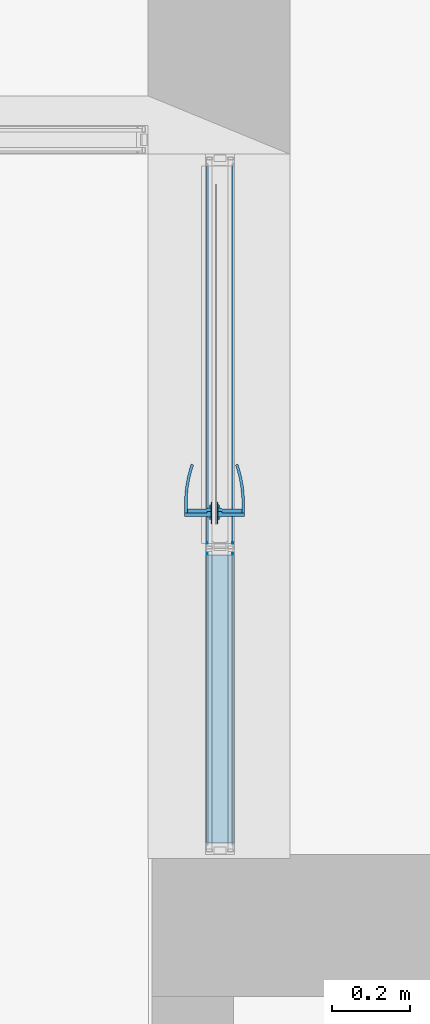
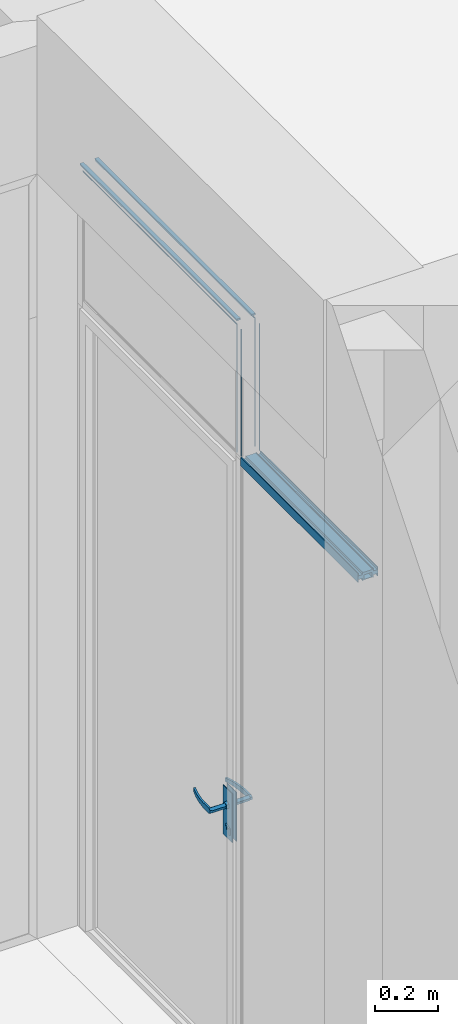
# One storey, part 72 of 89: 4 building element parts, 5 elements without a shape of their own.
"""IFC2X3 building model written with IfcOpenShell, lengths in millimetres."""

from ifc_helpers import new_model, entity, si_unit, converted_unit, derived_unit, money_unit, direction, frame, origin_with_axes, place, context, subcontext, project, spatial, open_shell, faceted_brep, surface_model, material, type_object, element, aggregate, save


model = new_model("IFC2X3")

# Units and contexts
model_context = context("Model", 3, precision=0.01, world=origin_with_axes(), true_north=direction((0.0, 1.0)))
body_context = subcontext(model_context, "Body", "Model", "MODEL_VIEW")
ifc_project = project(units=[si_unit("LENGTHUNIT", "METRE", prefix="MILLI"), si_unit("AREAUNIT", "SQUARE_METRE"), si_unit("VOLUMEUNIT", "CUBIC_METRE"), converted_unit("PLANEANGLEUNIT", "DEGREE", entity("IfcPlaneAngleMeasure", 0.0174532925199), si_unit("PLANEANGLEUNIT", "RADIAN"), dimensions=[0, 0, 0, 0, 0, 0, 0]), si_unit("SOLIDANGLEUNIT", "STERADIAN"), money_unit("EUR"), converted_unit("TIMEUNIT", "Year", entity("IfcTimeMeasure", 31556926.0), si_unit("TIMEUNIT", "SECOND"), dimensions=[0, 0, 1, 0, 0, 0, 0]), si_unit("MASSUNIT", "GRAM", prefix="KILO"), si_unit("THERMODYNAMICTEMPERATUREUNIT", "DEGREE_CELSIUS"), si_unit("LUMINOUSINTENSITYUNIT", "LUMEN"), si_unit("ENERGYUNIT", "JOULE", prefix="MEGA"), derived_unit("THERMALCONDUCTANCEUNIT", [(si_unit("POWERUNIT", "WATT"), 1), (si_unit("LENGTHUNIT", "METRE"), -1), (si_unit("THERMODYNAMICTEMPERATUREUNIT", "KELVIN"), -1)]), derived_unit("SPECIFICHEATCAPACITYUNIT", [(si_unit("ENERGYUNIT", "JOULE"), 1), (si_unit("MASSUNIT", "GRAM", prefix="KILO"), -1), (si_unit("THERMODYNAMICTEMPERATUREUNIT", "KELVIN"), -1)]), derived_unit("MASSDENSITYUNIT", [(si_unit("MASSUNIT", "GRAM", prefix="KILO"), 1), (si_unit("VOLUMEUNIT", "CUBIC_METRE"), -1)])], contexts=[model_context])

# Site, building, storey
site_placement = place(None, origin_with_axes())
site = spatial("IfcSite", under=ifc_project, at=site_placement, Name="Puškini 31, Narva", CompositionType="ELEMENT")
building_placement = place(site_placement, origin_with_axes())
building = spatial("IfcBuilding", under=site, at=building_placement, Name="Narva Riigigümnaasium", CompositionType="ELEMENT")
storey_placement = place(building_placement, frame((0.0, 0.0, -3300.0), z_axis=(0.0, 0.0, 1.0), x_axis=(1.0, 0.0, 0.0)))
storey = spatial("IfcBuildingStorey", under=building, at=storey_placement, Name="1.korrus -3.3", CompositionType="ELEMENT", Elevation=-3300.0)

# Curtain wall, door, building element parts, members
curtain_wall_type = type_object("IfcCurtainWallType", Name="Curtain Wall Type", PredefinedType="NOTDEFINED")
curtain_wall_placement = place(storey_placement, frame((47675.0000001, 242632.20006, -3.78005973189e-05), z_axis=(0.0, 0.0, 1.0), x_axis=(1.0, 0.0, 0.0)))
curtain_wall = element("IfcCurtainWall", 1, at=curtain_wall_placement, inside=storey, type_object=curtain_wall_type, Name="G-SKLF-10")
door_style = type_object("IfcDoorStyle", Name="955 x 2365 x 20", ConstructionType="NOTDEFINED", OperationType="NOTDEFINED", ParameterTakesPrecedence=False, Sizeable=False)
door_placement = place(curtain_wall_placement, frame((0.0, 921.799996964, 960.00001512), z_axis=(0.0, 0.0, 1.0), x_axis=(0.0, 1.0, 0.0)))
door = element("IfcDoor", 2, at=door_placement, type_object=door_style, Name="G-SKLF-10-U1", ObjectType="DOOR")
ifc_material_1 = material(Name="ET-07_Teras - Roostevaba")
building_element_part_1_placement = place(door_placement, origin_with_axes())
building_element_part_1 = element("IfcBuildingElementPart", 3, at=building_element_part_1_placement, material=ifc_material_1, Name="ET-07_Teras - Roostevaba", context=body_context, shape_type="SurfaceModel", body=[
    faceted_brep([(-544.50001575, 20.0, 119.999985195), (-487.50001575, 20.0, 119.999985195), (-487.50001575, 23.0, 119.999985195), (-544.50001575, 23.0, 119.999985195), (-544.50001575, 20.0, -70.0000148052), (-487.50001575, 20.0, -70.0000148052), (-487.50001575, 23.0, -70.0000148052), (-544.50001575, 23.0, -70.0000148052)], [[[0, 1, 2, 3]], [[0, 4, 5, 1]], [[1, 5, 6, 2]], [[3, 2, 6, 7]], [[4, 0, 3, 7]], [[5, 4, 7, 6]]]),
    surface_model("IfcShellBasedSurfaceModel", [(-516.00001575, 84.0, 49.9999851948), (-524.660269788, 84.0, 54.9999851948), (-524.660269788, 91.0, 54.9999851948), (-516.00001575, 91.0, 49.9999851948), (-491.00001575, 84.0, 49.9999851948), (-491.00001575, 84.0, 69.9999851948), (-516.00001575, 84.0, 69.9999851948), (-524.660269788, 84.0, 64.9999851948), (-524.660269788, 91.0, 64.9999851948), (-516.00001575, 91.0, 69.9999851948), (-491.00001575, 91.0, 69.9999851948), (-491.00001575, 91.0, 49.9999851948)], [open_shell([[[0, 1, 2, 3]], [[0, 4, 5, 6, 7, 1]], [[1, 7, 8, 2]], [[3, 2, 8, 9, 10, 11]], [[4, 0, 3, 11]], [[6, 5, 10, 9]], [[7, 6, 9, 8]]])]),
    surface_model("IfcShellBasedSurfaceModel", [(-491.00001575, 84.0, 69.9999851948), (-477.901732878, 84.0, 69.6072861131), (-477.596106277, 91.0, 69.6072861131), (-491.00001575, 84.0, 49.9999851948), (-477.901732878, 84.0, 50.3926842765), (-450.890299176, 88.6635446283, 68.8218879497), (-491.00001575, 91.0, 69.9999851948), (-491.00001575, 91.0, 49.9999851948), (-451.804852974, 81.716818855, 51.1780824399), (-451.804852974, 81.716818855, 68.8218879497), (-450.890299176, 88.6635446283, 51.1780824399), (-477.596106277, 91.0, 50.3926842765), (-426.006271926, 77.1678329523, 51.9634806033), (-426.006271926, 77.1678329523, 68.0364897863), (-424.489751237, 84.0084157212, 68.0364897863), (-424.489751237, 84.0084157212, 51.9634806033), (-400.702332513, 70.3876628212, 52.7488787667), (-400.702332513, 70.3876628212, 67.2510916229), (-398.595386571, 77.0700416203, 67.2510916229), (-398.595386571, 77.0700416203, 52.7488787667), (-392.829457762, 67.5221707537, 52.9999851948), (-392.829457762, 67.5221707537, 66.9999851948), (-390.538811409, 74.1376880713, 66.9999851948), (-390.538811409, 74.1376880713, 52.9999851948)], [open_shell([[[0, 1, 2]], [[0, 3, 4, 1]], [[1, 5, 2]], [[0, 2, 6]], [[4, 3, 7]], [[1, 4, 8, 9]], [[1, 9, 5]], [[2, 5, 10, 11]], [[6, 2, 11, 7]], [[4, 7, 11]], [[8, 4, 11]], [[9, 8, 12, 13]], [[9, 14, 5]], [[5, 14, 15, 10]], [[8, 11, 10]], [[12, 8, 10]], [[13, 12, 16, 17]], [[9, 13, 14]], [[14, 18, 19, 15]], [[12, 10, 15]], [[16, 12, 15]], [[17, 16, 20, 21]], [[13, 17, 18]], [[13, 18, 14]], [[18, 22, 23, 19]], [[16, 15, 19]], [[20, 16, 19]], [[21, 20, 23, 22]], [[17, 21, 22]], [[17, 22, 18]], [[20, 19, 23]]])]),
    faceted_brep([(-512.291811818, 33.0, 48.5873069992), (-504.00001575, 33.0, 59.9999851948), (-503.00001575, 23.0, 59.9999851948), (-511.982794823, 23.0, 47.6362504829), (-525.708219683, 33.0, 52.9465621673), (-525.708219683, 33.0, 67.0534082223), (-512.291811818, 33.0, 71.4126633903), (-511.982794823, 23.0, 72.3637199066), (-526.517236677, 23.0, 67.6411934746), (-526.517236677, 23.0, 52.358776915)], [[[0, 1, 2, 3]], [[1, 0, 4, 5, 6]], [[1, 6, 7, 2]], [[2, 7, 8, 9, 3]], [[4, 0, 3, 9]], [[5, 4, 9, 8]], [[6, 5, 8, 7]]]),
    faceted_brep([(-509.819675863, 27.0, -54.0211451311), (-496.00001575, 27.0, -35.0000148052), (-494.00001575, 23.0, -35.0000148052), (-509.201641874, 23.0, -55.9232581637), (-532.180355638, 27.0, -46.7557198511), (-532.180355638, 27.0, -23.2443097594), (-509.819675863, 27.0, -15.9788844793), (-509.201641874, 23.0, -14.0767714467), (-533.798389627, 23.0, -22.0687392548), (-533.798389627, 23.0, -47.9312903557)], [[[0, 1, 2, 3]], [[1, 0, 4, 5, 6]], [[1, 6, 7, 2]], [[2, 7, 8, 9, 3]], [[4, 0, 3, 9]], [[5, 4, 9, 8]], [[6, 5, 8, 7]]]),
    faceted_brep([(-513.83689679, 29.0, -32.6574104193), (-509.00001575, 29.0, -26.0000148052), (-508.00001575, 27.0, -26.0000148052), (-513.527879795, 27.0, -33.6084669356), (-521.663134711, 29.0, -30.1145115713), (-521.663134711, 29.0, -21.8855180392), (-513.83689679, 29.0, -19.3426191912), (-513.527879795, 27.0, -18.3915626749), (-522.472151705, 27.0, -21.2977327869), (-522.472151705, 27.0, -30.7022968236)], [[[0, 1, 2, 3]], [[1, 0, 4, 5, 6]], [[1, 6, 7, 2]], [[2, 7, 8, 9, 3]], [[4, 0, 3, 9]], [[5, 4, 9, 8]], [[6, 5, 8, 7]]]),
    faceted_brep([(-516.00001575, 33.0, 69.9999851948), (-506.489450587, 33.0, 63.0901551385), (-506.489450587, 84.0, 63.0901551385), (-516.00001575, 84.0, 69.9999851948), (-525.510580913, 33.0, 63.0901551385), (-521.877868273, 33.0, 51.909815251), (-510.122163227, 33.0, 51.909815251), (-510.122163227, 84.0, 51.909815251), (-521.877868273, 84.0, 51.909815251), (-525.510580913, 84.0, 63.0901551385)], [[[0, 1, 2, 3]], [[0, 4, 5, 6, 1]], [[1, 6, 7, 2]], [[3, 2, 7, 8, 9]], [[4, 0, 3, 9]], [[5, 4, 9, 8]], [[6, 5, 8, 7]]]),
    faceted_brep([(-544.50001575, 8.0, 119.999985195), (-544.50001575, 5.0, 119.999985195), (-487.50001575, 5.0, 119.999985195), (-487.50001575, 8.0, 119.999985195), (-544.50001575, 8.0, -70.0000148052), (-544.50001575, 5.0, -70.0000148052), (-487.50001575, 5.0, -70.0000148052), (-487.50001575, 8.0, -70.0000148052)], [[[0, 1, 2, 3]], [[4, 5, 1, 0]], [[1, 5, 6, 2]], [[3, 2, 6, 7]], [[0, 3, 7, 4]], [[7, 6, 5, 4]]]),
    surface_model("IfcShellBasedSurfaceModel", [(-516.00001575, -56.0, 49.9999851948), (-516.00001575, -63.0, 49.9999851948), (-524.660269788, -63.0, 54.9999851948), (-524.660269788, -56.0, 54.9999851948), (-491.00001575, -56.0, 49.9999851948), (-491.00001575, -63.0, 49.9999851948), (-491.00001575, -63.0, 69.9999851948), (-516.00001575, -63.0, 69.9999851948), (-524.660269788, -63.0, 64.9999851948), (-524.660269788, -56.0, 64.9999851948), (-516.00001575, -56.0, 69.9999851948), (-491.00001575, -56.0, 69.9999851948)], [open_shell([[[0, 1, 2, 3]], [[4, 5, 1, 0]], [[1, 5, 6, 7, 8, 2]], [[3, 2, 8, 9]], [[0, 3, 9, 10, 11, 4]], [[10, 7, 6, 11]], [[9, 8, 7, 10]]])]),
    surface_model("IfcShellBasedSurfaceModel", [(-491.00001575, -56.0, 69.9999851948), (-477.596106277, -63.0, 69.6072861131), (-477.901732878, -56.0, 69.6072861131), (-491.00001575, -63.0, 69.9999851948), (-450.890299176, -60.6635446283, 68.8218879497), (-477.901732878, -56.0, 50.3926842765), (-491.00001575, -56.0, 49.9999851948), (-491.00001575, -63.0, 49.9999851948), (-477.596106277, -63.0, 50.3926842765), (-450.890299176, -60.6635446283, 51.1780824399), (-451.804852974, -53.716818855, 68.8218879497), (-451.804852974, -53.716818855, 51.1780824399), (-424.489751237, -56.0084157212, 51.9634806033), (-424.489751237, -56.0084157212, 68.0364897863), (-426.006271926, -49.1678329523, 68.0364897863), (-426.006271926, -49.1678329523, 51.9634806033), (-398.595386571, -49.0700416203, 52.7488787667), (-398.595386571, -49.0700416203, 67.2510916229), (-400.702332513, -42.3876628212, 67.2510916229), (-400.702332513, -42.3876628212, 52.7488787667), (-390.538811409, -46.1376880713, 52.9999851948), (-390.538811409, -46.1376880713, 66.9999851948), (-392.829457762, -39.5221707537, 66.9999851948), (-392.829457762, -39.5221707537, 52.9999851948)], [open_shell([[[0, 1, 2]], [[0, 3, 1]], [[2, 1, 4]], [[0, 2, 5, 6]], [[3, 7, 8, 1]], [[1, 8, 9, 4]], [[2, 4, 10]], [[2, 10, 11, 5]], [[5, 7, 6]], [[5, 8, 7]], [[11, 9, 8]], [[4, 9, 12, 13]], [[10, 4, 13]], [[10, 14, 15, 11]], [[11, 8, 5]], [[15, 9, 11]], [[15, 12, 9]], [[13, 12, 16, 17]], [[10, 13, 14]], [[14, 18, 19, 15]], [[19, 12, 15]], [[19, 16, 12]], [[17, 16, 20, 21]], [[14, 13, 17]], [[14, 17, 18]], [[18, 22, 23, 19]], [[23, 16, 19]], [[23, 20, 16]], [[22, 21, 20, 23]], [[18, 17, 21]], [[18, 21, 22]]])]),
    faceted_brep([(-512.291811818, -5.0, 48.5873069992), (-511.982794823, 5.0, 47.6362504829), (-503.00001575, 5.0, 59.9999851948), (-504.00001575, -5.0, 59.9999851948), (-525.708219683, -5.0, 52.9465621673), (-526.517236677, 5.0, 52.358776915), (-526.517236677, 5.0, 67.6411934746), (-511.982794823, 5.0, 72.3637199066), (-512.291811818, -5.0, 71.4126633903), (-525.708219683, -5.0, 67.0534082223)], [[[0, 1, 2, 3]], [[4, 5, 1, 0]], [[2, 1, 5, 6, 7]], [[3, 2, 7, 8]], [[3, 8, 9, 4, 0]], [[9, 6, 5, 4]], [[8, 7, 6, 9]]]),
    faceted_brep([(-509.819675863, 0.999999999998, -54.0211451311), (-509.201641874, 5.0, -55.9232581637), (-494.00001575, 5.0, -35.0000148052), (-496.00001575, 0.999999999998, -35.0000148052), (-532.180355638, 0.999999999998, -46.7557198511), (-533.798389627, 5.0, -47.9312903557), (-533.798389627, 5.0, -22.0687392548), (-509.201641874, 5.0, -14.0767714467), (-509.819675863, 0.999999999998, -15.9788844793), (-532.180355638, 0.999999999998, -23.2443097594)], [[[0, 1, 2, 3]], [[4, 5, 1, 0]], [[2, 1, 5, 6, 7]], [[3, 2, 7, 8]], [[3, 8, 9, 4, 0]], [[9, 6, 5, 4]], [[8, 7, 6, 9]]]),
    faceted_brep([(-513.83689679, -0.999999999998, -32.6574104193), (-513.527879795, 0.999999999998, -33.6084669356), (-508.00001575, 0.999999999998, -26.0000148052), (-509.00001575, -0.999999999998, -26.0000148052), (-521.663134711, -0.999999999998, -30.1145115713), (-522.472151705, 0.999999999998, -30.7022968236), (-522.472151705, 0.999999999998, -21.2977327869), (-513.527879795, 0.999999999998, -18.3915626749), (-513.83689679, -0.999999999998, -19.3426191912), (-521.663134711, -0.999999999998, -21.8855180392)], [[[0, 1, 2, 3]], [[4, 5, 1, 0]], [[2, 1, 5, 6, 7]], [[3, 2, 7, 8]], [[3, 8, 9, 4, 0]], [[9, 6, 5, 4]], [[8, 7, 6, 9]]]),
    faceted_brep([(-516.00001575, -5.0, 69.9999851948), (-516.00001575, -56.0, 69.9999851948), (-506.489450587, -56.0, 63.0901551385), (-506.489450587, -5.0, 63.0901551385), (-525.510580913, -5.0, 63.0901551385), (-525.510580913, -56.0, 63.0901551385), (-521.877868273, -56.0, 51.909815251), (-510.122163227, -56.0, 51.909815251), (-510.122163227, -5.0, 51.909815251), (-521.877868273, -5.0, 51.909815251)], [[[0, 1, 2, 3]], [[4, 5, 1, 0]], [[1, 5, 6, 7, 2]], [[3, 2, 7, 8]], [[0, 3, 8, 9, 4]], [[9, 6, 5, 4]], [[8, 7, 6, 9]]]),
])
aggregate(door, [building_element_part_1])
member_type_1 = type_object("IfcMemberType", Name="30 x 64", PredefinedType="MULLION")
member_1_placement = place(curtain_wall_placement, frame((0.0, 327.799996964, 2949.99999283), z_axis=(0.0, 1.0, 0.0), x_axis=(0.0, 0.0, -1.0)))
member_1 = element("IfcMember", 4, at=member_1_placement, type_object=member_type_1, Name="G-SKLF-10-raam", ObjectType="MULLION")
ifc_material_2 = material(Name="Klaasvill")
building_element_part_2_placement = place(member_1_placement, origin_with_axes())
building_element_part_2 = element("IfcBuildingElementPart", 5, at=building_element_part_2_placement, material=ifc_material_2, Name="Klaasvill", context=body_context, shape_type="Brep", body=[
    faceted_brep([(7.49999990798, 20.000000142, 0.0), (13.8499999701, 20.000000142, 0.0), (13.8499999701, 20.000000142, 986.15000003), (7.49999990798, 20.000000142, 992.500000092), (7.49999990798, 34.0161444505, 0.0), (13.8499999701, 34.0161444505, 0.0), (13.8499999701, 34.0161444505, 986.15000003), (7.49999990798, 34.0161444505, 992.500000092)], [[[0, 1, 2, 3]], [[0, 4, 5, 1]], [[1, 5, 6, 2]], [[3, 2, 6, 7]], [[4, 0, 3, 7]], [[5, 4, 7, 6]]]),
    faceted_brep([(24.987414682, 34.0161444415, 0.0), (25.004489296, 32.0307503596, 0.0), (25.004489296, 32.0307503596, 974.995510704), (24.987414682, 34.0161444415, 975.012585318), (28.5126239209, 34.0161444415, 0.0), (28.7655837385, 33.0385325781, 0.0), (28.4955493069, 32.0307503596, 0.0), (27.75780152, 31.2930025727, 0.0), (26.7500193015, 31.0229681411, 0.0), (25.742237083, 31.2930025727, 0.0), (25.742237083, 31.2930025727, 974.257762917), (26.7500193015, 31.0229681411, 973.249980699), (27.75780152, 31.2930025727, 972.24219848), (28.4955493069, 32.0307503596, 971.504450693), (28.7655837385, 33.0385325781, 971.234416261), (28.5126239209, 34.0161444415, 971.487376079)], [[[0, 1, 2, 3]], [[0, 4, 5, 6, 7, 8, 9, 1]], [[1, 9, 10, 2]], [[3, 2, 10, 11, 12, 13, 14, 15]], [[4, 0, 3, 15]], [[5, 4, 15, 14]], [[6, 5, 14, 13]], [[7, 6, 13, 12]], [[8, 7, 12, 11]], [[9, 8, 11, 10]]]),
    faceted_brep([(7.49999990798, -19.9999997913, 0.0), (7.49999990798, -34.0161445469, 0.0), (7.49999990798, -34.0161445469, 992.500000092), (7.49999990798, -19.9999997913, 992.500000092), (13.8499999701, -19.9999997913, 0.0), (13.8499999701, -34.0161445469, 0.0), (13.8499999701, -34.0161445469, 986.15000003), (13.8499999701, -19.9999997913, 986.15000003)], [[[0, 1, 2, 3]], [[0, 4, 5, 1]], [[1, 5, 6, 2]], [[3, 2, 6, 7]], [[4, 0, 3, 7]], [[5, 4, 7, 6]]]),
    faceted_brep([(25.004489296, -32.0307503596, 0.0), (24.987414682, -34.0161444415, 0.0), (24.987414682, -34.0161444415, 975.012585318), (25.004489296, -32.0307503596, 974.995510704), (25.742237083, -31.2930025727, 0.0), (26.7500193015, -31.0229681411, 0.0), (27.75780152, -31.2930025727, 0.0), (28.4955493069, -32.0307503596, 0.0), (28.7655837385, -33.0385325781, 0.0), (28.5126239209, -34.0161444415, 0.0), (28.5126239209, -34.0161444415, 971.487376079), (28.7655837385, -33.0385325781, 971.234416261), (28.4955493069, -32.0307503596, 971.504450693), (27.75780152, -31.2930025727, 972.24219848), (26.7500193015, -31.0229681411, 973.249980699), (25.742237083, -31.2930025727, 974.257762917)], [[[0, 1, 2, 3]], [[0, 4, 5, 6, 7, 8, 9, 1]], [[1, 9, 10, 2]], [[3, 2, 10, 11, 12, 13, 14, 15]], [[4, 0, 3, 15]], [[5, 4, 15, 14]], [[6, 5, 14, 13]], [[7, 6, 13, 12]], [[8, 7, 12, 11]], [[9, 8, 11, 10]]]),
])
aggregate(member_1, [building_element_part_2])
member_type_2 = type_object("IfcMemberType", Name="34 x 37", PredefinedType="MULLION")
member_2_placement = place(curtain_wall_placement, frame((0.0, 314.800002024, 2430.00006962), z_axis=(0.0, 0.0, 1.0), x_axis=(0.0, 1.0, 0.0)))
member_2 = element("IfcMember", 6, at=member_2_placement, type_object=member_type_2, Name="G-SKLF-10-raam", ObjectType="MULLION")
building_element_part_3_placement = place(member_2_placement, origin_with_axes())
building_element_part_3 = element("IfcBuildingElementPart", 7, at=building_element_part_3_placement, material=ifc_material_2, Name="Klaasvill", context=body_context, shape_type="Brep", body=[
    faceted_brep([(11.987414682, 34.0161444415, 0.0), (12.004489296, 32.0307503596, 0.0), (12.004489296, 32.0307503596, 489.999903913), (11.987414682, 34.0161444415, 489.999903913), (15.5126239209, 34.0161444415, 0.0), (15.7655837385, 33.0385325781, 0.0), (15.4955493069, 32.0307503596, 0.0), (14.75780152, 31.2930025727, 0.0), (13.7500193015, 31.0229681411, 0.0), (12.742237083, 31.2930025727, 0.0), (12.742237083, 31.2930025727, 489.999903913), (13.7500193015, 31.0229681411, 489.999903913), (14.75780152, 31.2930025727, 489.999903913), (15.4955493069, 32.0307503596, 489.999903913), (15.7655837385, 33.0385325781, 489.999903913), (15.5126239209, 34.0161444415, 489.999903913)], [[[0, 1, 2, 3]], [[0, 4, 5, 6, 7, 8, 9, 1]], [[1, 9, 10, 2]], [[3, 2, 10, 11, 12, 13, 14, 15]], [[4, 0, 3, 15]], [[5, 4, 15, 14]], [[6, 5, 14, 13]], [[7, 6, 13, 12]], [[8, 7, 12, 11]], [[9, 8, 11, 10]]]),
    faceted_brep([(15.5126239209, -34.0161444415, 0.0), (15.4955493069, -32.0307503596, 0.0), (15.4955493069, -32.0307503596, 489.999903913), (15.5126239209, -34.0161444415, 489.999903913), (11.987414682, -34.0161444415, 0.0), (11.7344548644, -33.0385325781, 0.0), (12.004489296, -32.0307503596, 0.0), (12.742237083, -31.2930025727, 0.0), (13.7500193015, -31.0229681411, 0.0), (14.75780152, -31.2930025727, 0.0), (14.75780152, -31.2930025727, 489.999903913), (13.7500193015, -31.0229681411, 489.999903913), (12.742237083, -31.2930025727, 489.999903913), (12.004489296, -32.0307503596, 489.999903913), (11.7344548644, -33.0385325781, 489.999903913), (11.987414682, -34.0161444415, 489.999903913)], [[[0, 1, 2, 3]], [[0, 4, 5, 6, 7, 8, 9, 1]], [[1, 9, 10, 2]], [[3, 2, 10, 11, 12, 13, 14, 15]], [[4, 0, 3, 15]], [[5, 4, 15, 14]], [[6, 5, 14, 13]], [[7, 6, 13, 12]], [[8, 7, 12, 11]], [[9, 8, 11, 10]]]),
    faceted_brep([(-11.987414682, 34.0161444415, 0.0), (-15.7655837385, 33.0385325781, 0.0), (-15.7655837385, 33.0385325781, 489.999903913), (-11.987414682, 34.0161444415, 489.999903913), (-11.7344548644, 33.0385325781, 0.0), (-12.004489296, 32.0307503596, 0.0), (-12.742237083, 31.2930025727, 0.0), (-13.7500193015, 31.0229681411, 0.0), (-14.75780152, 31.2930025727, 0.0), (-15.4955493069, 32.0307503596, 0.0), (-15.4955493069, 32.0307503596, 489.999903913), (-14.75780152, 31.2930025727, 489.999903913), (-13.7500193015, 31.0229681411, 489.999903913), (-12.742237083, 31.2930025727, 489.999903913), (-12.004489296, 32.0307503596, 489.999903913), (-11.7344548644, 33.0385325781, 489.999903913)], [[[0, 1, 2, 3]], [[0, 4, 5, 6, 7, 8, 9, 1]], [[1, 9, 10, 2]], [[3, 2, 10, 11, 12, 13, 14, 15]], [[4, 0, 3, 15]], [[5, 4, 15, 14]], [[6, 5, 14, 13]], [[7, 6, 13, 12]], [[8, 7, 12, 11]], [[9, 8, 11, 10]]]),
    faceted_brep([(-15.4955493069, -32.0307503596, 0.0), (-15.5126239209, -34.0161444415, 0.0), (-15.5126239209, -34.0161444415, 489.999903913), (-15.4955493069, -32.0307503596, 489.999903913), (-14.75780152, -31.2930025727, 0.0), (-13.7500193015, -31.0229681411, 0.0), (-12.742237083, -31.2930025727, 0.0), (-12.004489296, -32.0307503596, 0.0), (-11.7344548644, -33.0385325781, 0.0), (-11.987414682, -34.0161444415, 0.0), (-11.987414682, -34.0161444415, 489.999903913), (-11.7344548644, -33.0385325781, 489.999903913), (-12.004489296, -32.0307503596, 489.999903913), (-12.742237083, -31.2930025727, 489.999903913), (-13.7500193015, -31.0229681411, 489.999903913), (-14.75780152, -31.2930025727, 489.999903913)], [[[0, 1, 2, 3]], [[0, 4, 5, 6, 7, 8, 9, 1]], [[1, 9, 10, 2]], [[3, 2, 10, 11, 12, 13, 14, 15]], [[4, 0, 3, 15]], [[5, 4, 15, 14]], [[6, 5, 14, 13]], [[7, 6, 13, 12]], [[8, 7, 12, 11]], [[9, 8, 11, 10]]]),
])
aggregate(member_2, [building_element_part_3])
member_3_placement = place(curtain_wall_placement, frame((0.0, 297.799972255, 2413.00003494), z_axis=(0.0, -1.0, -3.71718252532e-09), x_axis=(0.0, -3.71718252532e-09, 1.0)))
member_3 = element("IfcMember", 8, at=member_3_placement, type_object=member_type_2, Name="G-SKLF-10-raam", ObjectType="MULLION")
aggregate(curtain_wall, [door, member_1, member_2, member_3])
ifc_material_3 = material(Name="Teras RAL7012")
building_element_part_4_placement = place(member_3_placement, origin_with_axes())
building_element_part_4 = element("IfcBuildingElementPart", 9, at=building_element_part_4_placement, material=ifc_material_3, Name="Teras RAL7012", context=body_context, shape_type="Brep", body=[
    faceted_brep([(-14.8000001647, -17.0000000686, 0.0), (-3.08905781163e-07, -17.0000000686, 0.0), (-3.08905781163e-07, -17.0000000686, 739.999955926), (-14.8000001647, -17.0000000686, 739.999955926), (-14.8000001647, 17.0000001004, 0.0), (-3.08905781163e-07, 17.0000001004, 0.0), (14.8000003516, 17.0000001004, 0.0), (14.8000003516, -17.0000000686, 0.0), (-12.8000002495, 15.0000001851, 0.0), (-12.8000002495, -15.0000001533, 0.0), (4.0000003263, -15.0000001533, 0.0), (4.0000003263, 15.0000001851, 0.0), (14.8000003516, -17.0000000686, 739.999955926), (14.8000003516, 17.0000001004, 739.999956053), (-3.08905781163e-07, 17.0000001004, 739.999956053), (-14.8000001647, 17.0000001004, 739.999956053), (-12.8000002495, 15.0000001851, 739.999956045), (4.0000003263, 15.0000001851, 739.999956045), (4.0000003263, -15.0000001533, 739.999955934), (-12.8000002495, -15.0000001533, 739.999955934)], [[[0, 1, 2, 3]], [[0, 4, 5, 6, 7, 1], [8, 9, 10, 11]], [[1, 7, 12, 2]], [[3, 2, 12, 13, 14, 15], [16, 17, 18, 19]], [[4, 0, 3, 15]], [[5, 4, 15, 14]], [[6, 5, 14, 13]], [[7, 6, 13, 12]], [[9, 8, 16, 19]], [[10, 9, 19, 18]], [[11, 10, 18, 17]], [[8, 11, 17, 16]]]),
    faceted_brep([(0.0, 37.0000000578, 0.0), (0.0, 17.0, 0.0), (0.0, 17.0, 739.999956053), (0.0, 37.0000000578, 739.999956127), (17.0000193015, 37.0000000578, 0.0), (17.0000193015, 34.0161446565, 0.0), (15.5126239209, 34.0161444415, 0.0), (11.987414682, 34.0161444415, 0.0), (7.50000002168, 34.0161446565, 0.0), (7.50000002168, 20.0000000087, 0.0), (17.0000193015, 20.0000000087, 0.0), (17.0000193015, 17.0, 0.0), (14.8000003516, 17.0000001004, 0.0), (14.8000003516, 17.0000001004, 739.999956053), (17.0000193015, 17.0, 739.999956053), (17.0000193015, 20.0000000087, 739.999956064), (7.50000002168, 20.0000000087, 739.999956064), (7.50000002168, 34.0161446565, 739.999956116), (11.987414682, 34.0161444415, 739.999956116), (15.5126239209, 34.0161444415, 739.999956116), (17.0000193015, 34.0161446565, 739.999956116), (17.0000193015, 37.0000000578, 739.999956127)], [[[0, 1, 2, 3]], [[0, 4, 5, 6, 7, 8, 9, 10, 11, 12, 1]], [[1, 12, 13, 2]], [[3, 2, 13, 14, 15, 16, 17, 18, 19, 20, 21]], [[4, 0, 3, 21]], [[5, 4, 21, 20]], [[6, 5, 20, 19]], [[7, 6, 19, 18]], [[8, 7, 18, 17]], [[9, 8, 17, 16]], [[10, 9, 16, 15]], [[11, 10, 15, 14]], [[12, 11, 14, 13]]]),
    faceted_brep([(0.0, -16.9999999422, 0.0), (0.0, -37.0, 0.0), (0.0, -37.0, 739.999955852), (0.0, -16.9999999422, 739.999955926), (14.8000003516, -17.0000000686, 0.0), (17.0000193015, -16.9999999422, 0.0), (17.0000193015, -19.9999999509, 0.0), (7.50000002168, -19.9999999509, 0.0), (7.50000002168, -34.0161445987, 0.0), (11.987414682, -34.0161444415, 0.0), (15.5126239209, -34.0161444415, 0.0), (17.0000193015, -34.0161445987, 0.0), (17.0000193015, -37.0, 0.0), (17.0000193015, -37.0, 739.999955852), (17.0000193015, -34.0161445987, 739.999955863), (15.5126239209, -34.0161444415, 739.999955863), (11.987414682, -34.0161444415, 739.999955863), (7.50000002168, -34.0161445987, 739.999955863), (7.50000002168, -19.9999999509, 739.999955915), (17.0000193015, -19.9999999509, 739.999955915), (17.0000193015, -16.9999999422, 739.999955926), (14.8000003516, -17.0000000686, 739.999955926)], [[[0, 1, 2, 3]], [[0, 4, 5, 6, 7, 8, 9, 10, 11, 12, 1]], [[1, 12, 13, 2]], [[3, 2, 13, 14, 15, 16, 17, 18, 19, 20, 21]], [[4, 0, 3, 21]], [[5, 4, 21, 20]], [[6, 5, 20, 19]], [[7, 6, 19, 18]], [[8, 7, 18, 17]], [[9, 8, 17, 16]], [[10, 9, 16, 15]], [[11, 10, 15, 14]], [[12, 11, 14, 13]]]),
    faceted_brep([(0.0, 17.0, 0.0), (0.0, 37.0, 0.0), (0.0, 37.0, 739.999956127), (0.0, 17.0, 739.999956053), (-14.8000001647, 17.0000001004, 0.0), (-17.0000193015, 17.0, 0.0), (-17.0000193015, 20.0, 0.0), (-7.49999999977, 20.0, 0.0), (-7.49999999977, 34.0161444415, 0.0), (-11.987414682, 34.0161444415, 0.0), (-15.5126239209, 34.0161444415, 0.0), (-17.0000193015, 34.0161444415, 0.0), (-17.0000193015, 37.0, 0.0), (-17.0000193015, 37.0, 739.999956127), (-17.0000193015, 34.0161444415, 739.999956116), (-15.5126239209, 34.0161444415, 739.999956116), (-11.987414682, 34.0161444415, 739.999956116), (-7.49999999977, 34.0161444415, 739.999956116), (-7.49999999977, 20.0, 739.999956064), (-17.0000193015, 20.0, 739.999956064), (-17.0000193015, 17.0, 739.999956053), (-14.8000001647, 17.0000001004, 739.999956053)], [[[0, 1, 2, 3]], [[0, 4, 5, 6, 7, 8, 9, 10, 11, 12, 1]], [[1, 12, 13, 2]], [[3, 2, 13, 14, 15, 16, 17, 18, 19, 20, 21]], [[4, 0, 3, 21]], [[5, 4, 21, 20]], [[6, 5, 20, 19]], [[7, 6, 19, 18]], [[8, 7, 18, 17]], [[9, 8, 17, 16]], [[10, 9, 16, 15]], [[11, 10, 15, 14]], [[12, 11, 14, 13]]]),
    faceted_brep([(0.0, -17.0, 0.0), (-14.8000001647, -17.0000000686, 0.0), (-14.8000001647, -17.0000000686, 739.999955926), (0.0, -17.0, 739.999955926), (0.0, -37.0, 0.0), (-17.0000193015, -37.0, 0.0), (-17.0000193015, -34.0161444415, 0.0), (-15.5126239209, -34.0161444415, 0.0), (-11.987414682, -34.0161444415, 0.0), (-7.49999999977, -34.0161444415, 0.0), (-7.49999999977, -20.0, 0.0), (-17.0000193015, -20.0, 0.0), (-17.0000193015, -17.0, 0.0), (-17.0000193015, -17.0, 739.999955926), (-17.0000193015, -20.0, 739.999955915), (-7.49999999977, -20.0, 739.999955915), (-7.49999999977, -34.0161444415, 739.999955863), (-11.987414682, -34.0161444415, 739.999955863), (-15.5126239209, -34.0161444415, 739.999955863), (-17.0000193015, -34.0161444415, 739.999955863), (-17.0000193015, -37.0, 739.999955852), (0.0, -37.0, 739.999955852)], [[[0, 1, 2, 3]], [[0, 4, 5, 6, 7, 8, 9, 10, 11, 12, 1]], [[1, 12, 13, 2]], [[3, 2, 13, 14, 15, 16, 17, 18, 19, 20, 21]], [[4, 0, 3, 21]], [[5, 4, 21, 20]], [[6, 5, 20, 19]], [[7, 6, 19, 18]], [[8, 7, 18, 17]], [[9, 8, 17, 16]], [[10, 9, 16, 15]], [[11, 10, 15, 14]], [[12, 11, 14, 13]]]),
])
aggregate(member_3, [building_element_part_4])

save(model, "model.ifc")
